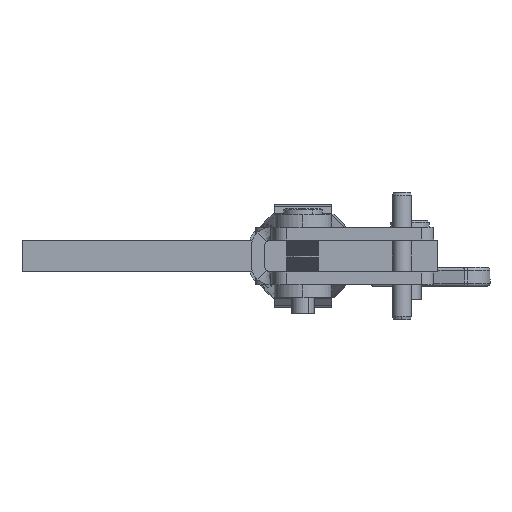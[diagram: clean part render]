
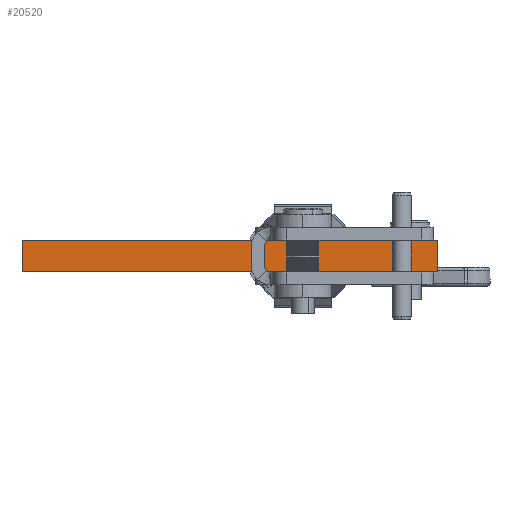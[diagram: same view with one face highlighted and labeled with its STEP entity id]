
A CAD part, front view. The second image highlights one B-rep face of the part: STEP entity #20520.
In plain terms, the highlighted planar face has unit normal (0, -1, 0).
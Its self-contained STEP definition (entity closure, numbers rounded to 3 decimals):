
#5545 = VERTEX_POINT ( 'NONE', #19240 ) ;
#5902 = DIRECTION ( 'NONE',  ( 0., 0., -1. ) ) ;
#6359 = PLANE ( 'NONE',  #35873 ) ;
#6424 = VECTOR ( 'NONE', #11110, 1000. ) ;
#8712 = CARTESIAN_POINT ( 'NONE',  ( 0., 0., 10. ) ) ;
#9151 = ORIENTED_EDGE ( 'NONE', *, *, #14203, .F. ) ;
#10330 = VECTOR ( 'NONE', #10613, 1000. ) ;
#10613 = DIRECTION ( 'NONE',  ( 1., 0., 0. ) ) ;
#11110 = DIRECTION ( 'NONE',  ( 0., 0., -1. ) ) ;
#11417 = VECTOR ( 'NONE', #41393, 1000. ) ;
#13519 = CARTESIAN_POINT ( 'NONE',  ( 0., 0., 10. ) ) ;
#14203 = EDGE_CURVE ( 'NONE', #5545, #24497, #43533, .T. ) ;
#17144 = EDGE_LOOP ( 'NONE', ( #36150, #9151, #41564, #38678 ) ) ;
#17489 = LINE ( 'NONE', #28401, #10330 ) ;
#17916 = VERTEX_POINT ( 'NONE', #13519 ) ;
#19016 = CARTESIAN_POINT ( 'NONE',  ( 0., 0., 0. ) ) ;
#19240 = CARTESIAN_POINT ( 'NONE',  ( 130., 0., 10. ) ) ;
#20429 = EDGE_CURVE ( 'NONE', #22870, #24497, #40752, .T. ) ;
#20520 = ADVANCED_FACE ( 'NONE', ( #20603 ), #6359, .F. ) ;
#20603 = FACE_OUTER_BOUND ( 'NONE', #17144, .T. ) ;
#22718 = LINE ( 'NONE', #8712, #11417 ) ;
#22870 = VERTEX_POINT ( 'NONE', #19016 ) ;
#24497 = VERTEX_POINT ( 'NONE', #24587 ) ;
#24587 = CARTESIAN_POINT ( 'NONE',  ( 130., 0., 0. ) ) ;
#28401 = CARTESIAN_POINT ( 'NONE',  ( 0., 0., 10. ) ) ;
#32981 = EDGE_CURVE ( 'NONE', #17916, #22870, #22718, .T. ) ;
#33422 = DIRECTION ( 'NONE',  ( 1., 0., 0. ) ) ;
#34129 = CARTESIAN_POINT ( 'NONE',  ( 0., 0., 0. ) ) ;
#35873 = AXIS2_PLACEMENT_3D ( 'NONE', #38366, #45912, #5902 ) ;
#36150 = ORIENTED_EDGE ( 'NONE', *, *, #20429, .T. ) ;
#38366 = CARTESIAN_POINT ( 'NONE',  ( 0., 0., 10. ) ) ;
#38678 = ORIENTED_EDGE ( 'NONE', *, *, #32981, .T. ) ;
#38891 = VECTOR ( 'NONE', #33422, 1000. ) ;
#39322 = EDGE_CURVE ( 'NONE', #17916, #5545, #17489, .T. ) ;
#40235 = CARTESIAN_POINT ( 'NONE',  ( 130., 0., 10. ) ) ;
#40752 = LINE ( 'NONE', #34129, #38891 ) ;
#41393 = DIRECTION ( 'NONE',  ( 0., 0., -1. ) ) ;
#41564 = ORIENTED_EDGE ( 'NONE', *, *, #39322, .F. ) ;
#43533 = LINE ( 'NONE', #40235, #6424 ) ;
#45912 = DIRECTION ( 'NONE',  ( 0., 1., 0. ) ) ;
